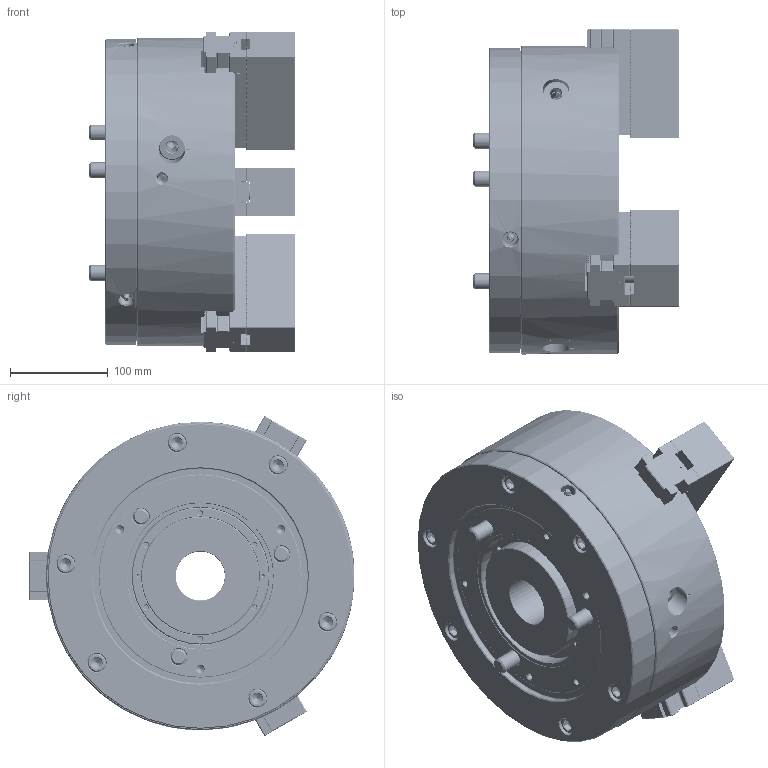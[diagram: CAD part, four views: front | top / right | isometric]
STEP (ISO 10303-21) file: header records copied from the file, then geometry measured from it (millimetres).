
FILE_DESCRIPTION (( 'STEP AP214' ), '1' );
FILE_NAME ('QJR12_61P261583-3_HCL.STEP', '2026-03-16T04:48:39', ( '' ), ( '' ), 'SwSTEP 2.0', 'SolidWorks 2022', '' );
FILE_SCHEMA (( 'AUTOMOTIVE_DESIGN' ));
Length unit declared in the file: millimetre
Products named in the file (7): QJR12_61P261583-3_HCL; DT1_QJR12_BASE^DT1_QJR12; DT1_QJR12_DRAWNUT^DT1_QJR12; Copy of 0030116045^DT1_QJR12; DT1_QJR12_SOFTJAW^DT1_QJR12; DT1_QJR12_M16x130^DT1_QJR12; DT1_QJR12_BASEJAW^DT1_QJR12
Assembly tree (17 placements, depth 2):
  QJR12_61P261583-3_HCL
    DT1_QJR12_DRAWNUT^DT1_QJR12
    DT1_QJR12_SOFTJAW^DT1_QJR12  x3
    DT1_QJR12_M16x130^DT1_QJR12  x3
    DT1_QJR12_BASEJAW^DT1_QJR12  x3
    DT1_QJR12_BASE^DT1_QJR12
    Copy of 0030116045^DT1_QJR12  x6
Bounding box: 210 x 331.87 x 326.63 mm (x, y, z)
Volume: 9895693.4 mm3; surface area: 781698.7 mm2
Topology: 17 solids, 98 shells, 9616 faces, 26526 edges, 17230 vertices
Faces by surface type: plane 6220, cylinder 1452, bspline 1051, cone 720, torus 107, sphere 66
Entity records: 248407 total; most frequent: CARTESIAN_POINT 100947, ORIENTED_EDGE 33064, DIRECTION 26037, EDGE_CURVE 16532, LINE 11043, VECTOR 11043, VERTEX_POINT 10765, AXIS2_PLACEMENT_3D 7497
